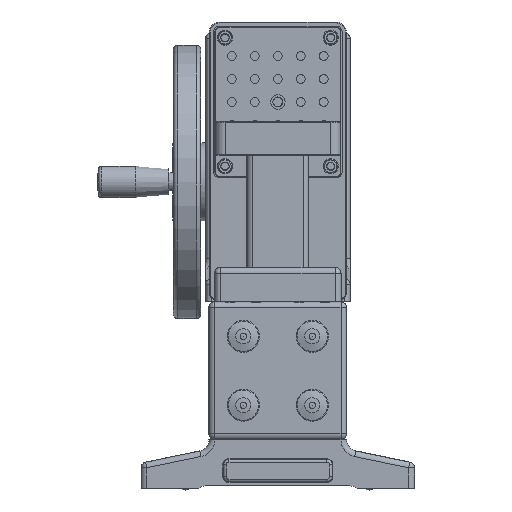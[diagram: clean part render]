
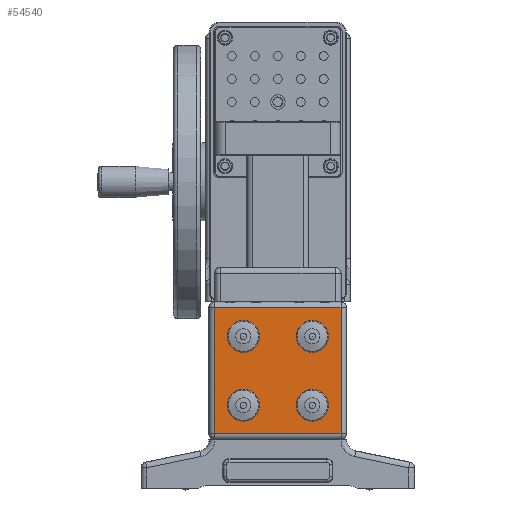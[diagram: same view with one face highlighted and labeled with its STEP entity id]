
A CAD part, left-side view. The second image highlights one B-rep face of the part: STEP entity #54540.
In plain terms, the highlighted planar face has unit normal (-1, 0, 0).
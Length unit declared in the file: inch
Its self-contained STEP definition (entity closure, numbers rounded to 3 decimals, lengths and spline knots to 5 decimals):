
#54266=CARTESIAN_POINT('',(18.8199,58.61254,8.284));
#54267=VERTEX_POINT('',#54266);
#54268=CARTESIAN_POINT('',(18.8199,58.26504,8.284));
#54269=DIRECTION('',(1.0,0.0,0.0));
#54270=DIRECTION('',(0.0,1.0,0.0));
#54271=AXIS2_PLACEMENT_3D('',#54268,#54269,#54270);
#54272=CIRCLE('',#54271,0.3475);
#54273=EDGE_CURVE('',#54267,#54267,#54272,.T.);
#54323=CARTESIAN_POINT('',(18.8199,60.11254,8.284));
#54324=VERTEX_POINT('',#54323);
#54325=CARTESIAN_POINT('',(18.8199,59.76504,8.284));
#54326=DIRECTION('',(1.0,0.0,0.0));
#54327=DIRECTION('',(0.0,1.0,0.0));
#54328=AXIS2_PLACEMENT_3D('',#54325,#54326,#54327);
#54329=CIRCLE('',#54328,0.3475);
#54330=EDGE_CURVE('',#54324,#54324,#54329,.T.);
#54380=CARTESIAN_POINT('',(18.8199,60.11254,9.784));
#54381=VERTEX_POINT('',#54380);
#54382=CARTESIAN_POINT('',(18.8199,59.76504,9.784));
#54383=DIRECTION('',(1.0,0.0,0.0));
#54384=DIRECTION('',(0.0,1.0,0.0));
#54385=AXIS2_PLACEMENT_3D('',#54382,#54383,#54384);
#54386=CIRCLE('',#54385,0.3475);
#54387=EDGE_CURVE('',#54381,#54381,#54386,.T.);
#54437=CARTESIAN_POINT('',(18.8199,58.61254,9.784));
#54438=VERTEX_POINT('',#54437);
#54439=CARTESIAN_POINT('',(18.8199,58.26504,9.784));
#54440=DIRECTION('',(1.0,0.0,0.0));
#54441=DIRECTION('',(0.0,1.0,0.0));
#54442=AXIS2_PLACEMENT_3D('',#54439,#54440,#54441);
#54443=CIRCLE('',#54442,0.3475);
#54444=EDGE_CURVE('',#54438,#54438,#54443,.T.);
#54489=CARTESIAN_POINT('',(18.8199,59.01504,9.034));
#54490=DIRECTION('',(-1.0,0.0,0.0));
#54491=DIRECTION('',(0.0,0.0,1.0));
#54492=AXIS2_PLACEMENT_3D('',#54489,#54490,#54491);
#54493=PLANE('',#54492);
#54494=CARTESIAN_POINT('',(18.8199,60.39004,10.409));
#54495=VERTEX_POINT('',#54494);
#54496=CARTESIAN_POINT('',(18.8199,60.39004,7.659));
#54497=VERTEX_POINT('',#54496);
#54498=CARTESIAN_POINT('',(18.8199,60.39004,10.409));
#54499=DIRECTION('',(0.0,0.0,-1.0));
#54500=VECTOR('',#54499,2.75);
#54501=LINE('',#54498,#54500);
#54502=EDGE_CURVE('',#54495,#54497,#54501,.T.);
#54503=ORIENTED_EDGE('',*,*,#54502,.T.);
#54504=CARTESIAN_POINT('',(18.8199,57.64004,7.659));
#54505=VERTEX_POINT('',#54504);
#54506=CARTESIAN_POINT('',(18.8199,60.39004,7.659));
#54507=DIRECTION('',(0.0,-1.0,0.0));
#54508=VECTOR('',#54507,2.75);
#54509=LINE('',#54506,#54508);
#54510=EDGE_CURVE('',#54497,#54505,#54509,.T.);
#54511=ORIENTED_EDGE('',*,*,#54510,.T.);
#54512=CARTESIAN_POINT('',(18.8199,57.64004,10.409));
#54513=VERTEX_POINT('',#54512);
#54514=CARTESIAN_POINT('',(18.8199,57.64004,7.659));
#54515=DIRECTION('',(0.0,0.0,1.0));
#54516=VECTOR('',#54515,2.75);
#54517=LINE('',#54514,#54516);
#54518=EDGE_CURVE('',#54505,#54513,#54517,.T.);
#54519=ORIENTED_EDGE('',*,*,#54518,.T.);
#54520=CARTESIAN_POINT('',(18.8199,57.64004,10.409));
#54521=DIRECTION('',(0.0,1.0,0.0));
#54522=VECTOR('',#54521,2.75);
#54523=LINE('',#54520,#54522);
#54524=EDGE_CURVE('',#54513,#54495,#54523,.T.);
#54525=ORIENTED_EDGE('',*,*,#54524,.T.);
#54526=EDGE_LOOP('',(#54503,#54511,#54519,#54525));
#54527=FACE_OUTER_BOUND('',#54526,.T.);
#54528=ORIENTED_EDGE('',*,*,#54273,.T.);
#54529=EDGE_LOOP('',(#54528));
#54530=FACE_BOUND('',#54529,.T.);
#54531=ORIENTED_EDGE('',*,*,#54330,.T.);
#54532=EDGE_LOOP('',(#54531));
#54533=FACE_BOUND('',#54532,.T.);
#54534=ORIENTED_EDGE('',*,*,#54387,.T.);
#54535=EDGE_LOOP('',(#54534));
#54536=FACE_BOUND('',#54535,.T.);
#54537=ORIENTED_EDGE('',*,*,#54444,.T.);
#54538=EDGE_LOOP('',(#54537));
#54539=FACE_BOUND('',#54538,.T.);
#54540=ADVANCED_FACE('',(#54527,#54530,#54533,#54536,#54539),#54493,.T.);
